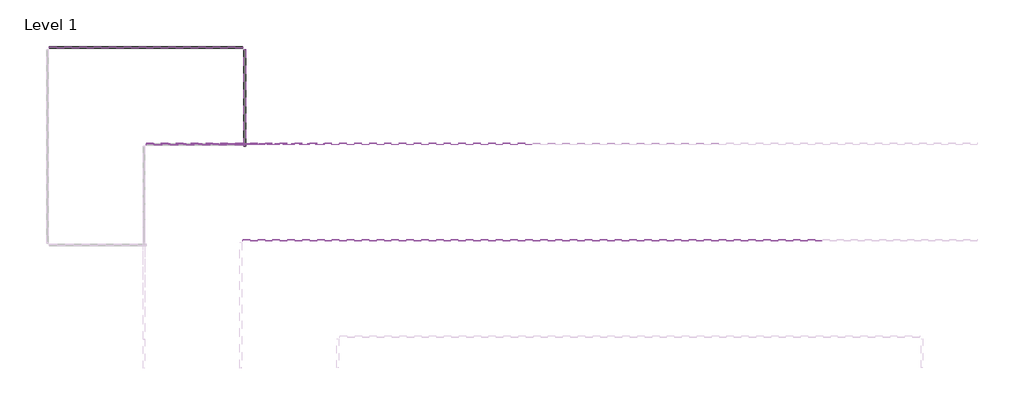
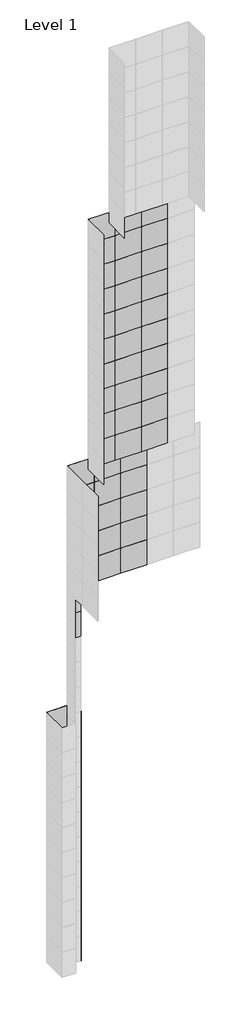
# One storey, part 13 of 15: 135 plates.
"""IFC4 building model written with IfcOpenShell, lengths in millimetres."""

from ifc_helpers import new_model, si_unit, origin, place, context, project, spatial, transform, mapped, element, save
from components import system_panel_glazed_9c75bc08, system_panel_glazed_0a0842ec, system_panel_glazed_aa64d645

model = new_model("IFC4")

# Units and contexts
model_context = context("Model", 3, world=origin())
ifc_project = project(units=[si_unit("LENGTHUNIT", "METRE", prefix="MILLI")], contexts=[model_context])

# Site, building, storey
site = spatial("IfcSite", under=ifc_project)
building = spatial("IfcBuilding", under=site)
storey = spatial("IfcBuildingStorey", under=building, Name="Level 1", Elevation=0.0)

# Plates
placement = place(None, origin())
system_panel_glazed_shape = system_panel_glazed_9c75bc08(model_context)
element("IfcPlate", 1, ObjectType="System Panel : Glazed", at=placement, inside=storey, context=model_context, shape_type="MappedRepresentation", body=[
    mapped(system_panel_glazed_shape, transform((37356.2903978, 9875.0904402, 39624.0), x_axis=(-1.0, 0.0, 0.0), y_axis=(0.0, -1.0, 0.0), z_axis=(0.0, 0.0, 1.0))),
])
element("IfcPlate", 2, ObjectType="System Panel : Glazed", at=placement, inside=storey, context=model_context, shape_type="MappedRepresentation", body=[
    mapped(system_panel_glazed_shape, transform((37356.2903978, 9875.0904402, 42672.0), x_axis=(-1.0, 0.0, 0.0), y_axis=(0.0, -1.0, 0.0), z_axis=(0.0, 0.0, 1.0))),
])
element("IfcPlate", 3, ObjectType="System Panel : Glazed", at=placement, inside=storey, context=model_context, shape_type="MappedRepresentation", body=[
    mapped(system_panel_glazed_shape, transform((37356.2903978, 9875.0904402, 0.0), x_axis=(-1.0, 0.0, 0.0), y_axis=(0.0, -1.0, 0.0), z_axis=(0.0, 0.0, 1.0))),
])
element("IfcPlate", 4, ObjectType="System Panel : Glazed", at=placement, inside=storey, context=model_context, shape_type="MappedRepresentation", body=[
    mapped(system_panel_glazed_shape, transform((37356.2903978, 9875.0904402, 3048.0), x_axis=(-1.0, 0.0, 0.0), y_axis=(0.0, -1.0, 0.0), z_axis=(0.0, 0.0, 1.0))),
])
element("IfcPlate", 5, ObjectType="System Panel : Glazed", at=placement, inside=storey, context=model_context, shape_type="MappedRepresentation", body=[
    mapped(system_panel_glazed_shape, transform((37356.2903978, 9875.0904402, 6096.0), x_axis=(-1.0, 0.0, 0.0), y_axis=(0.0, -1.0, 0.0), z_axis=(0.0, 0.0, 1.0))),
])
element("IfcPlate", 6, ObjectType="System Panel : Glazed", at=placement, inside=storey, context=model_context, shape_type="MappedRepresentation", body=[
    mapped(system_panel_glazed_shape, transform((37356.2903978, 9875.0904402, 9144.0), x_axis=(-1.0, 0.0, 0.0), y_axis=(0.0, -1.0, 0.0), z_axis=(0.0, 0.0, 1.0))),
])
element("IfcPlate", 7, ObjectType="System Panel : Glazed", at=placement, inside=storey, context=model_context, shape_type="MappedRepresentation", body=[
    mapped(system_panel_glazed_shape, transform((37356.2903978, 9875.0904402, 12192.0), x_axis=(-1.0, 0.0, 0.0), y_axis=(0.0, -1.0, 0.0), z_axis=(0.0, 0.0, 1.0))),
])
element("IfcPlate", 8, ObjectType="System Panel : Glazed", at=placement, inside=storey, context=model_context, shape_type="MappedRepresentation", body=[
    mapped(system_panel_glazed_shape, transform((37356.2903978, 9875.0904402, 15240.0), x_axis=(-1.0, 0.0, 0.0), y_axis=(0.0, -1.0, 0.0), z_axis=(0.0, 0.0, 1.0))),
])
element("IfcPlate", 9, ObjectType="System Panel : Glazed", at=placement, inside=storey, context=model_context, shape_type="MappedRepresentation", body=[
    mapped(system_panel_glazed_shape, transform((37356.2903978, 9875.0904402, 18288.0), x_axis=(-1.0, 0.0, 0.0), y_axis=(0.0, -1.0, 0.0), z_axis=(0.0, 0.0, 1.0))),
])
element("IfcPlate", 10, ObjectType="System Panel : Glazed", at=placement, inside=storey, context=model_context, shape_type="MappedRepresentation", body=[
    mapped(system_panel_glazed_shape, transform((37356.2903978, 9875.0904402, 21336.0), x_axis=(-1.0, 0.0, 0.0), y_axis=(0.0, -1.0, 0.0), z_axis=(0.0, 0.0, 1.0))),
])
element("IfcPlate", 11, ObjectType="System Panel : Glazed", at=placement, inside=storey, context=model_context, shape_type="MappedRepresentation", body=[
    mapped(system_panel_glazed_shape, transform((37356.2903978, 9875.0904402, 24384.0), x_axis=(-1.0, 0.0, 0.0), y_axis=(0.0, -1.0, 0.0), z_axis=(0.0, 0.0, 1.0))),
])
element("IfcPlate", 12, ObjectType="System Panel : Glazed", at=placement, inside=storey, context=model_context, shape_type="MappedRepresentation", body=[
    mapped(system_panel_glazed_shape, transform((37356.2903978, 9875.0904402, 27432.0), x_axis=(-1.0, 0.0, 0.0), y_axis=(0.0, -1.0, 0.0), z_axis=(0.0, 0.0, 1.0))),
])
element("IfcPlate", 13, ObjectType="System Panel : Glazed", at=placement, inside=storey, context=model_context, shape_type="MappedRepresentation", body=[
    mapped(system_panel_glazed_shape, transform((37356.2903978, 9875.0904402, 30480.0), x_axis=(-1.0, 0.0, 0.0), y_axis=(0.0, -1.0, 0.0), z_axis=(0.0, 0.0, 1.0))),
])
element("IfcPlate", 14, ObjectType="System Panel : Glazed", at=placement, inside=storey, context=model_context, shape_type="MappedRepresentation", body=[
    mapped(system_panel_glazed_shape, transform((37356.2903978, 9875.0904402, 33528.0), x_axis=(-1.0, 0.0, 0.0), y_axis=(0.0, -1.0, 0.0), z_axis=(0.0, 0.0, 1.0))),
])
element("IfcPlate", 15, ObjectType="System Panel : Glazed", at=placement, inside=storey, context=model_context, shape_type="MappedRepresentation", body=[
    mapped(system_panel_glazed_shape, transform((37356.2903978, 9875.0904402, 36576.0), x_axis=(-1.0, 0.0, 0.0), y_axis=(0.0, -1.0, 0.0), z_axis=(0.0, 0.0, 1.0))),
])
element("IfcPlate", 16, ObjectType="System Panel : Glazed", at=placement, inside=storey, context=model_context, shape_type="MappedRepresentation", body=[
    mapped(system_panel_glazed_shape, transform((37356.2903978, 9875.0904402, 39624.0), x_axis=(-1.0, 0.0, 0.0), y_axis=(0.0, -1.0, 0.0), z_axis=(0.0, 0.0, 1.0))),
])
element("IfcPlate", 17, ObjectType="System Panel : Glazed", at=placement, inside=storey, context=model_context, shape_type="MappedRepresentation", body=[
    mapped(system_panel_glazed_shape, transform((37356.2903978, 9875.0904402, 42672.0), x_axis=(-1.0, 0.0, 0.0), y_axis=(0.0, -1.0, 0.0), z_axis=(0.0, 0.0, 1.0))),
])
element("IfcPlate", 18, ObjectType="System Panel : Glazed", at=placement, inside=storey, context=model_context, shape_type="MappedRepresentation", body=[
    mapped(system_panel_glazed_shape, transform((37356.2903978, 9875.0904402, 0.0), x_axis=(-1.0, 0.0, 0.0), y_axis=(0.0, -1.0, 0.0), z_axis=(0.0, 0.0, 1.0))),
])
element("IfcPlate", 19, ObjectType="System Panel : Glazed", at=placement, inside=storey, context=model_context, shape_type="MappedRepresentation", body=[
    mapped(system_panel_glazed_shape, transform((37356.2903978, 9875.0904402, 3048.0), x_axis=(-1.0, 0.0, 0.0), y_axis=(0.0, -1.0, 0.0), z_axis=(0.0, 0.0, 1.0))),
])
element("IfcPlate", 20, ObjectType="System Panel : Glazed", at=placement, inside=storey, context=model_context, shape_type="MappedRepresentation", body=[
    mapped(system_panel_glazed_shape, transform((37356.2903978, 9875.0904402, 6096.0), x_axis=(-1.0, 0.0, 0.0), y_axis=(0.0, -1.0, 0.0), z_axis=(0.0, 0.0, 1.0))),
])
element("IfcPlate", 21, ObjectType="System Panel : Glazed", at=placement, inside=storey, context=model_context, shape_type="MappedRepresentation", body=[
    mapped(system_panel_glazed_shape, transform((37356.2903978, 9875.0904402, 9144.0), x_axis=(-1.0, 0.0, 0.0), y_axis=(0.0, -1.0, 0.0), z_axis=(0.0, 0.0, 1.0))),
])
element("IfcPlate", 22, ObjectType="System Panel : Glazed", at=placement, inside=storey, context=model_context, shape_type="MappedRepresentation", body=[
    mapped(system_panel_glazed_shape, transform((37356.2903978, 9875.0904402, 12192.0), x_axis=(-1.0, 0.0, 0.0), y_axis=(0.0, -1.0, 0.0), z_axis=(0.0, 0.0, 1.0))),
])
element("IfcPlate", 23, ObjectType="System Panel : Glazed", at=placement, inside=storey, context=model_context, shape_type="MappedRepresentation", body=[
    mapped(system_panel_glazed_shape, transform((37356.2903978, 9875.0904402, 15240.0), x_axis=(-1.0, 0.0, 0.0), y_axis=(0.0, -1.0, 0.0), z_axis=(0.0, 0.0, 1.0))),
])
element("IfcPlate", 24, ObjectType="System Panel : Glazed", at=placement, inside=storey, context=model_context, shape_type="MappedRepresentation", body=[
    mapped(system_panel_glazed_shape, transform((37356.2903978, 9875.0904402, 18288.0), x_axis=(-1.0, 0.0, 0.0), y_axis=(0.0, -1.0, 0.0), z_axis=(0.0, 0.0, 1.0))),
])
element("IfcPlate", 25, ObjectType="System Panel : Glazed", at=placement, inside=storey, context=model_context, shape_type="MappedRepresentation", body=[
    mapped(system_panel_glazed_shape, transform((37356.2903978, 9875.0904402, 21336.0), x_axis=(-1.0, 0.0, 0.0), y_axis=(0.0, -1.0, 0.0), z_axis=(0.0, 0.0, 1.0))),
])
element("IfcPlate", 26, ObjectType="System Panel : Glazed", at=placement, inside=storey, context=model_context, shape_type="MappedRepresentation", body=[
    mapped(system_panel_glazed_shape, transform((37356.2903978, 9875.0904402, 24384.0), x_axis=(-1.0, 0.0, 0.0), y_axis=(0.0, -1.0, 0.0), z_axis=(0.0, 0.0, 1.0))),
])
element("IfcPlate", 27, ObjectType="System Panel : Glazed", at=placement, inside=storey, context=model_context, shape_type="MappedRepresentation", body=[
    mapped(system_panel_glazed_shape, transform((37356.2903978, 9875.0904402, 27432.0), x_axis=(-1.0, 0.0, 0.0), y_axis=(0.0, -1.0, 0.0), z_axis=(0.0, 0.0, 1.0))),
])
element("IfcPlate", 28, ObjectType="System Panel : Glazed", at=placement, inside=storey, context=model_context, shape_type="MappedRepresentation", body=[
    mapped(system_panel_glazed_shape, transform((37356.2903978, 9875.0904402, 30480.0), x_axis=(-1.0, 0.0, 0.0), y_axis=(0.0, -1.0, 0.0), z_axis=(0.0, 0.0, 1.0))),
])
element("IfcPlate", 29, ObjectType="System Panel : Glazed", at=placement, inside=storey, context=model_context, shape_type="MappedRepresentation", body=[
    mapped(system_panel_glazed_shape, transform((37356.2903978, 9875.0904402, 33528.0), x_axis=(-1.0, 0.0, 0.0), y_axis=(0.0, -1.0, 0.0), z_axis=(0.0, 0.0, 1.0))),
])
element("IfcPlate", 30, ObjectType="System Panel : Glazed", at=placement, inside=storey, context=model_context, shape_type="MappedRepresentation", body=[
    mapped(system_panel_glazed_shape, transform((37356.2903978, 9875.0904402, 36576.0), x_axis=(-1.0, 0.0, 0.0), y_axis=(0.0, -1.0, 0.0), z_axis=(0.0, 0.0, 1.0))),
])
element("IfcPlate", 31, ObjectType="System Panel : Glazed", at=placement, inside=storey, context=model_context, shape_type="MappedRepresentation", body=[
    mapped(system_panel_glazed_shape, transform((37356.2903978, 9875.0904402, 39624.0), x_axis=(-1.0, 0.0, 0.0), y_axis=(0.0, -1.0, 0.0), z_axis=(0.0, 0.0, 1.0))),
])
element("IfcPlate", 32, ObjectType="System Panel : Glazed", at=placement, inside=storey, context=model_context, shape_type="MappedRepresentation", body=[
    mapped(system_panel_glazed_shape, transform((37356.2903978, 9875.0904402, 42672.0), x_axis=(-1.0, 0.0, 0.0), y_axis=(0.0, -1.0, 0.0), z_axis=(0.0, 0.0, 1.0))),
])
element("IfcPlate", 33, ObjectType="System Panel : Glazed", at=placement, inside=storey, context=model_context, shape_type="MappedRepresentation", body=[
    mapped(system_panel_glazed_shape, transform((38118.2903978, 10637.0904402, 0.0), x_axis=(0.0, 1.0, 0.0), y_axis=(-1.0, 0.0, 0.0), z_axis=(0.0, 0.0, 1.0))),
])
element("IfcPlate", 34, ObjectType="System Panel : Glazed", at=placement, inside=storey, context=model_context, shape_type="MappedRepresentation", body=[
    mapped(system_panel_glazed_shape, transform((38118.2903978, 10637.0904402, 3048.0), x_axis=(0.0, 1.0, 0.0), y_axis=(-1.0, 0.0, 0.0), z_axis=(0.0, 0.0, 1.0))),
])
element("IfcPlate", 35, ObjectType="System Panel : Glazed", at=placement, inside=storey, context=model_context, shape_type="MappedRepresentation", body=[
    mapped(system_panel_glazed_shape, transform((38118.2903978, 10637.0904402, 6096.0), x_axis=(0.0, 1.0, 0.0), y_axis=(-1.0, 0.0, 0.0), z_axis=(0.0, 0.0, 1.0))),
])
element("IfcPlate", 36, ObjectType="System Panel : Glazed", at=placement, inside=storey, context=model_context, shape_type="MappedRepresentation", body=[
    mapped(system_panel_glazed_shape, transform((38118.2903978, 10637.0904402, 9144.0), x_axis=(0.0, 1.0, 0.0), y_axis=(-1.0, 0.0, 0.0), z_axis=(0.0, 0.0, 1.0))),
])
element("IfcPlate", 37, ObjectType="System Panel : Glazed", at=placement, inside=storey, context=model_context, shape_type="MappedRepresentation", body=[
    mapped(system_panel_glazed_shape, transform((38118.2903978, 10637.0904402, 12192.0), x_axis=(0.0, 1.0, 0.0), y_axis=(-1.0, 0.0, 0.0), z_axis=(0.0, 0.0, 1.0))),
])
element("IfcPlate", 38, ObjectType="System Panel : Glazed", at=placement, inside=storey, context=model_context, shape_type="MappedRepresentation", body=[
    mapped(system_panel_glazed_shape, transform((38118.2903978, 10637.0904402, 15240.0), x_axis=(0.0, 1.0, 0.0), y_axis=(-1.0, 0.0, 0.0), z_axis=(0.0, 0.0, 1.0))),
])
element("IfcPlate", 39, ObjectType="System Panel : Glazed", at=placement, inside=storey, context=model_context, shape_type="MappedRepresentation", body=[
    mapped(system_panel_glazed_shape, transform((38118.2903978, 10637.0904402, 18288.0), x_axis=(0.0, 1.0, 0.0), y_axis=(-1.0, 0.0, 0.0), z_axis=(0.0, 0.0, 1.0))),
])
element("IfcPlate", 40, ObjectType="System Panel : Glazed", at=placement, inside=storey, context=model_context, shape_type="MappedRepresentation", body=[
    mapped(system_panel_glazed_shape, transform((38118.2903978, 10637.0904402, 21336.0), x_axis=(0.0, 1.0, 0.0), y_axis=(-1.0, 0.0, 0.0), z_axis=(0.0, 0.0, 1.0))),
])
element("IfcPlate", 41, ObjectType="System Panel : Glazed", at=placement, inside=storey, context=model_context, shape_type="MappedRepresentation", body=[
    mapped(system_panel_glazed_shape, transform((38118.2903978, 10637.0904402, 24384.0), x_axis=(0.0, 1.0, 0.0), y_axis=(-1.0, 0.0, 0.0), z_axis=(0.0, 0.0, 1.0))),
])
element("IfcPlate", 42, ObjectType="System Panel : Glazed", at=placement, inside=storey, context=model_context, shape_type="MappedRepresentation", body=[
    mapped(system_panel_glazed_shape, transform((38118.2903978, 10637.0904402, 27432.0), x_axis=(0.0, 1.0, 0.0), y_axis=(-1.0, 0.0, 0.0), z_axis=(0.0, 0.0, 1.0))),
])
system_panel_glazed_2_shape = system_panel_glazed_0a0842ec(model_context)
element("IfcPlate", 43, ObjectType="System Panel : Glazed", at=placement, inside=storey, context=model_context, shape_type="MappedRepresentation", body=[
    mapped(system_panel_glazed_2_shape, transform((38118.2903978, 9875.0904402, 45720.0), x_axis=(-1.0, 0.0, 0.0), y_axis=(0.0, -1.0, 0.0), z_axis=(0.0, 0.0, 1.0))),
])
element("IfcPlate", 44, ObjectType="System Panel : Glazed", at=placement, inside=storey, context=model_context, shape_type="MappedRepresentation", body=[
    mapped(system_panel_glazed_2_shape, transform((38118.2903978, 9875.0904402, 45720.0), x_axis=(-1.0, 0.0, 0.0), y_axis=(0.0, -1.0, 0.0), z_axis=(0.0, 0.0, 1.0))),
])
element("IfcPlate", 45, ObjectType="System Panel : Glazed", at=placement, inside=storey, context=model_context, shape_type="MappedRepresentation", body=[
    mapped(system_panel_glazed_2_shape, transform((38118.2903978, 9875.0904402, 45720.0), x_axis=(-1.0, 0.0, 0.0), y_axis=(0.0, -1.0, 0.0), z_axis=(0.0, 0.0, 1.0))),
])
system_panel_glazed_3_shape = system_panel_glazed_aa64d645(model_context)
element("IfcPlate", 46, ObjectType="System Panel : Glazed", at=placement, inside=storey, context=model_context, shape_type="MappedRepresentation", body=[
    mapped(system_panel_glazed_3_shape, transform((44214.2903978, 9875.0904402, 45720.0), x_axis=(-1.0, 0.0, 0.0), y_axis=(0.0, -1.0, 0.0), z_axis=(0.0, 0.0, 1.0))),
])
element("IfcPlate", 47, ObjectType="System Panel : Glazed", at=placement, inside=storey, context=model_context, shape_type="MappedRepresentation", body=[
    mapped(system_panel_glazed_3_shape, transform((41166.2903978, 9875.0904402, 45720.0), x_axis=(-1.0, 0.0, 0.0), y_axis=(0.0, -1.0, 0.0), z_axis=(0.0, 0.0, 1.0))),
])
element("IfcPlate", 48, ObjectType="System Panel : Glazed", at=placement, inside=storey, context=model_context, shape_type="MappedRepresentation", body=[
    mapped(system_panel_glazed_3_shape, transform((44214.2903978, 9875.0904402, 48768.0), x_axis=(-1.0, 0.0, 0.0), y_axis=(0.0, -1.0, 0.0), z_axis=(0.0, 0.0, 1.0))),
])
element("IfcPlate", 49, ObjectType="System Panel : Glazed", at=placement, inside=storey, context=model_context, shape_type="MappedRepresentation", body=[
    mapped(system_panel_glazed_3_shape, transform((41166.2903978, 9875.0904402, 48768.0), x_axis=(-1.0, 0.0, 0.0), y_axis=(0.0, -1.0, 0.0), z_axis=(0.0, 0.0, 1.0))),
])
element("IfcPlate", 50, ObjectType="System Panel : Glazed", at=placement, inside=storey, context=model_context, shape_type="MappedRepresentation", body=[
    mapped(system_panel_glazed_3_shape, transform((38118.2903978, 9875.0904402, 48768.0), x_axis=(-1.0, 0.0, 0.0), y_axis=(0.0, -1.0, 0.0), z_axis=(0.0, 0.0, 1.0))),
])
element("IfcPlate", 51, ObjectType="System Panel : Glazed", at=placement, inside=storey, context=model_context, shape_type="MappedRepresentation", body=[
    mapped(system_panel_glazed_3_shape, transform((44214.2903978, 9875.0904402, 51816.0), x_axis=(-1.0, 0.0, 0.0), y_axis=(0.0, -1.0, 0.0), z_axis=(0.0, 0.0, 1.0))),
])
element("IfcPlate", 52, ObjectType="System Panel : Glazed", at=placement, inside=storey, context=model_context, shape_type="MappedRepresentation", body=[
    mapped(system_panel_glazed_3_shape, transform((41166.2903978, 9875.0904402, 51816.0), x_axis=(-1.0, 0.0, 0.0), y_axis=(0.0, -1.0, 0.0), z_axis=(0.0, 0.0, 1.0))),
])
element("IfcPlate", 53, ObjectType="System Panel : Glazed", at=placement, inside=storey, context=model_context, shape_type="MappedRepresentation", body=[
    mapped(system_panel_glazed_3_shape, transform((38118.2903978, 9875.0904402, 51816.0), x_axis=(-1.0, 0.0, 0.0), y_axis=(0.0, -1.0, 0.0), z_axis=(0.0, 0.0, 1.0))),
])
element("IfcPlate", 54, ObjectType="System Panel : Glazed", at=placement, inside=storey, context=model_context, shape_type="MappedRepresentation", body=[
    mapped(system_panel_glazed_3_shape, transform((44214.2903978, 9875.0904402, 54864.0), x_axis=(-1.0, 0.0, 0.0), y_axis=(0.0, -1.0, 0.0), z_axis=(0.0, 0.0, 1.0))),
])
element("IfcPlate", 55, ObjectType="System Panel : Glazed", at=placement, inside=storey, context=model_context, shape_type="MappedRepresentation", body=[
    mapped(system_panel_glazed_3_shape, transform((41166.2903978, 9875.0904402, 54864.0), x_axis=(-1.0, 0.0, 0.0), y_axis=(0.0, -1.0, 0.0), z_axis=(0.0, 0.0, 1.0))),
])
element("IfcPlate", 56, ObjectType="System Panel : Glazed", at=placement, inside=storey, context=model_context, shape_type="MappedRepresentation", body=[
    mapped(system_panel_glazed_3_shape, transform((38118.2903978, 9875.0904402, 54864.0), x_axis=(-1.0, 0.0, 0.0), y_axis=(0.0, -1.0, 0.0), z_axis=(0.0, 0.0, 1.0))),
])
element("IfcPlate", 57, ObjectType="System Panel : Glazed", at=placement, inside=storey, context=model_context, shape_type="MappedRepresentation", body=[
    mapped(system_panel_glazed_3_shape, transform((44214.2903978, 9875.0904402, 57912.0), x_axis=(-1.0, 0.0, 0.0), y_axis=(0.0, -1.0, 0.0), z_axis=(0.0, 0.0, 1.0))),
])
element("IfcPlate", 58, ObjectType="System Panel : Glazed", at=placement, inside=storey, context=model_context, shape_type="MappedRepresentation", body=[
    mapped(system_panel_glazed_3_shape, transform((41166.2903978, 9875.0904402, 57912.0), x_axis=(-1.0, 0.0, 0.0), y_axis=(0.0, -1.0, 0.0), z_axis=(0.0, 0.0, 1.0))),
])
element("IfcPlate", 59, ObjectType="System Panel : Glazed", at=placement, inside=storey, context=model_context, shape_type="MappedRepresentation", body=[
    mapped(system_panel_glazed_3_shape, transform((38118.2903978, 9875.0904402, 57912.0), x_axis=(-1.0, 0.0, 0.0), y_axis=(0.0, -1.0, 0.0), z_axis=(0.0, 0.0, 1.0))),
])
element("IfcPlate", 60, ObjectType="System Panel : Glazed", at=placement, inside=storey, context=model_context, shape_type="MappedRepresentation", body=[
    mapped(system_panel_glazed_3_shape, transform((45738.2903978, 8351.0904402, 60960.0), x_axis=(-1.0, 0.0, 0.0), y_axis=(0.0, -1.0, 0.0), z_axis=(0.0, 0.0, 1.0))),
])
element("IfcPlate", 61, ObjectType="System Panel : Glazed", at=placement, inside=storey, context=model_context, shape_type="MappedRepresentation", body=[
    mapped(system_panel_glazed_3_shape, transform((42690.2903978, 8351.0904402, 60960.0), x_axis=(-1.0, 0.0, 0.0), y_axis=(0.0, -1.0, 0.0), z_axis=(0.0, 0.0, 1.0))),
])
element("IfcPlate", 62, ObjectType="System Panel : Glazed", at=placement, inside=storey, context=model_context, shape_type="MappedRepresentation", body=[
    mapped(system_panel_glazed_3_shape, transform((39642.2903978, 8351.0904402, 60960.0), x_axis=(-1.0, 0.0, 0.0), y_axis=(0.0, -1.0, 0.0), z_axis=(0.0, 0.0, 1.0))),
])
element("IfcPlate", 63, ObjectType="System Panel : Glazed", at=placement, inside=storey, context=model_context, shape_type="MappedRepresentation", body=[
    mapped(system_panel_glazed_3_shape, transform((45738.2903978, 8351.0904402, 64008.0), x_axis=(-1.0, 0.0, 0.0), y_axis=(0.0, -1.0, 0.0), z_axis=(0.0, 0.0, 1.0))),
])
element("IfcPlate", 64, ObjectType="System Panel : Glazed", at=placement, inside=storey, context=model_context, shape_type="MappedRepresentation", body=[
    mapped(system_panel_glazed_3_shape, transform((42690.2903978, 8351.0904402, 64008.0), x_axis=(-1.0, 0.0, 0.0), y_axis=(0.0, -1.0, 0.0), z_axis=(0.0, 0.0, 1.0))),
])
element("IfcPlate", 65, ObjectType="System Panel : Glazed", at=placement, inside=storey, context=model_context, shape_type="MappedRepresentation", body=[
    mapped(system_panel_glazed_3_shape, transform((39642.2903978, 8351.0904402, 64008.0), x_axis=(-1.0, 0.0, 0.0), y_axis=(0.0, -1.0, 0.0), z_axis=(0.0, 0.0, 1.0))),
])
element("IfcPlate", 66, ObjectType="System Panel : Glazed", at=placement, inside=storey, context=model_context, shape_type="MappedRepresentation", body=[
    mapped(system_panel_glazed_3_shape, transform((45738.2903978, 8351.0904402, 67056.0), x_axis=(-1.0, 0.0, 0.0), y_axis=(0.0, -1.0, 0.0), z_axis=(0.0, 0.0, 1.0))),
])
element("IfcPlate", 67, ObjectType="System Panel : Glazed", at=placement, inside=storey, context=model_context, shape_type="MappedRepresentation", body=[
    mapped(system_panel_glazed_3_shape, transform((42690.2903978, 8351.0904402, 67056.0), x_axis=(-1.0, 0.0, 0.0), y_axis=(0.0, -1.0, 0.0), z_axis=(0.0, 0.0, 1.0))),
])
element("IfcPlate", 68, ObjectType="System Panel : Glazed", at=placement, inside=storey, context=model_context, shape_type="MappedRepresentation", body=[
    mapped(system_panel_glazed_3_shape, transform((39642.2903978, 8351.0904402, 67056.0), x_axis=(-1.0, 0.0, 0.0), y_axis=(0.0, -1.0, 0.0), z_axis=(0.0, 0.0, 1.0))),
])
element("IfcPlate", 69, ObjectType="System Panel : Glazed", at=placement, inside=storey, context=model_context, shape_type="MappedRepresentation", body=[
    mapped(system_panel_glazed_3_shape, transform((45738.2903978, 8351.0904402, 70104.0), x_axis=(-1.0, 0.0, 0.0), y_axis=(0.0, -1.0, 0.0), z_axis=(0.0, 0.0, 1.0))),
])
element("IfcPlate", 70, ObjectType="System Panel : Glazed", at=placement, inside=storey, context=model_context, shape_type="MappedRepresentation", body=[
    mapped(system_panel_glazed_3_shape, transform((42690.2903978, 8351.0904402, 70104.0), x_axis=(-1.0, 0.0, 0.0), y_axis=(0.0, -1.0, 0.0), z_axis=(0.0, 0.0, 1.0))),
])
element("IfcPlate", 71, ObjectType="System Panel : Glazed", at=placement, inside=storey, context=model_context, shape_type="MappedRepresentation", body=[
    mapped(system_panel_glazed_3_shape, transform((39642.2903978, 8351.0904402, 70104.0), x_axis=(-1.0, 0.0, 0.0), y_axis=(0.0, -1.0, 0.0), z_axis=(0.0, 0.0, 1.0))),
])
element("IfcPlate", 72, ObjectType="System Panel : Glazed", at=placement, inside=storey, context=model_context, shape_type="MappedRepresentation", body=[
    mapped(system_panel_glazed_3_shape, transform((45738.2903978, 8351.0904402, 73152.0), x_axis=(-1.0, 0.0, 0.0), y_axis=(0.0, -1.0, 0.0), z_axis=(0.0, 0.0, 1.0))),
])
element("IfcPlate", 73, ObjectType="System Panel : Glazed", at=placement, inside=storey, context=model_context, shape_type="MappedRepresentation", body=[
    mapped(system_panel_glazed_3_shape, transform((42690.2903978, 8351.0904402, 73152.0), x_axis=(-1.0, 0.0, 0.0), y_axis=(0.0, -1.0, 0.0), z_axis=(0.0, 0.0, 1.0))),
])
element("IfcPlate", 74, ObjectType="System Panel : Glazed", at=placement, inside=storey, context=model_context, shape_type="MappedRepresentation", body=[
    mapped(system_panel_glazed_3_shape, transform((39642.2903978, 8351.0904402, 73152.0), x_axis=(-1.0, 0.0, 0.0), y_axis=(0.0, -1.0, 0.0), z_axis=(0.0, 0.0, 1.0))),
])
element("IfcPlate", 75, ObjectType="System Panel : Glazed", at=placement, inside=storey, context=model_context, shape_type="MappedRepresentation", body=[
    mapped(system_panel_glazed_3_shape, transform((45738.2903978, 8351.0904402, 76200.0), x_axis=(-1.0, 0.0, 0.0), y_axis=(0.0, -1.0, 0.0), z_axis=(0.0, 0.0, 1.0))),
])
element("IfcPlate", 76, ObjectType="System Panel : Glazed", at=placement, inside=storey, context=model_context, shape_type="MappedRepresentation", body=[
    mapped(system_panel_glazed_3_shape, transform((42690.2903978, 8351.0904402, 76200.0), x_axis=(-1.0, 0.0, 0.0), y_axis=(0.0, -1.0, 0.0), z_axis=(0.0, 0.0, 1.0))),
])
element("IfcPlate", 77, ObjectType="System Panel : Glazed", at=placement, inside=storey, context=model_context, shape_type="MappedRepresentation", body=[
    mapped(system_panel_glazed_3_shape, transform((39642.2903978, 8351.0904402, 76200.0), x_axis=(-1.0, 0.0, 0.0), y_axis=(0.0, -1.0, 0.0), z_axis=(0.0, 0.0, 1.0))),
])
element("IfcPlate", 78, ObjectType="System Panel : Glazed", at=placement, inside=storey, context=model_context, shape_type="MappedRepresentation", body=[
    mapped(system_panel_glazed_3_shape, transform((45738.2903978, 8351.0904402, 79248.0), x_axis=(-1.0, 0.0, 0.0), y_axis=(0.0, -1.0, 0.0), z_axis=(0.0, 0.0, 1.0))),
])
element("IfcPlate", 79, ObjectType="System Panel : Glazed", at=placement, inside=storey, context=model_context, shape_type="MappedRepresentation", body=[
    mapped(system_panel_glazed_3_shape, transform((42690.2903978, 8351.0904402, 79248.0), x_axis=(-1.0, 0.0, 0.0), y_axis=(0.0, -1.0, 0.0), z_axis=(0.0, 0.0, 1.0))),
])
element("IfcPlate", 80, ObjectType="System Panel : Glazed", at=placement, inside=storey, context=model_context, shape_type="MappedRepresentation", body=[
    mapped(system_panel_glazed_3_shape, transform((39642.2903978, 8351.0904402, 79248.0), x_axis=(-1.0, 0.0, 0.0), y_axis=(0.0, -1.0, 0.0), z_axis=(0.0, 0.0, 1.0))),
])
element("IfcPlate", 81, ObjectType="System Panel : Glazed", at=placement, inside=storey, context=model_context, shape_type="MappedRepresentation", body=[
    mapped(system_panel_glazed_3_shape, transform((45738.2903978, 8351.0904402, 82296.0), x_axis=(-1.0, 0.0, 0.0), y_axis=(0.0, -1.0, 0.0), z_axis=(0.0, 0.0, 1.0))),
])
element("IfcPlate", 82, ObjectType="System Panel : Glazed", at=placement, inside=storey, context=model_context, shape_type="MappedRepresentation", body=[
    mapped(system_panel_glazed_3_shape, transform((42690.2903978, 8351.0904402, 82296.0), x_axis=(-1.0, 0.0, 0.0), y_axis=(0.0, -1.0, 0.0), z_axis=(0.0, 0.0, 1.0))),
])
element("IfcPlate", 83, ObjectType="System Panel : Glazed", at=placement, inside=storey, context=model_context, shape_type="MappedRepresentation", body=[
    mapped(system_panel_glazed_3_shape, transform((39642.2903978, 8351.0904402, 82296.0), x_axis=(-1.0, 0.0, 0.0), y_axis=(0.0, -1.0, 0.0), z_axis=(0.0, 0.0, 1.0))),
])
element("IfcPlate", 84, ObjectType="System Panel : Glazed", at=placement, inside=storey, context=model_context, shape_type="MappedRepresentation", body=[
    mapped(system_panel_glazed_3_shape, transform((45738.2903978, 8351.0904402, 85344.0), x_axis=(-1.0, 0.0, 0.0), y_axis=(0.0, -1.0, 0.0), z_axis=(0.0, 0.0, 1.0))),
])
element("IfcPlate", 85, ObjectType="System Panel : Glazed", at=placement, inside=storey, context=model_context, shape_type="MappedRepresentation", body=[
    mapped(system_panel_glazed_3_shape, transform((42690.2903978, 8351.0904402, 85344.0), x_axis=(-1.0, 0.0, 0.0), y_axis=(0.0, -1.0, 0.0), z_axis=(0.0, 0.0, 1.0))),
])
element("IfcPlate", 86, ObjectType="System Panel : Glazed", at=placement, inside=storey, context=model_context, shape_type="MappedRepresentation", body=[
    mapped(system_panel_glazed_3_shape, transform((39642.2903978, 8351.0904402, 85344.0), x_axis=(-1.0, 0.0, 0.0), y_axis=(0.0, -1.0, 0.0), z_axis=(0.0, 0.0, 1.0))),
])
element("IfcPlate", 87, ObjectType="System Panel : Glazed", at=placement, inside=storey, context=model_context, shape_type="MappedRepresentation", body=[
    mapped(system_panel_glazed_3_shape, transform((45738.2903978, 8351.0904402, 88392.0), x_axis=(-1.0, 0.0, 0.0), y_axis=(0.0, -1.0, 0.0), z_axis=(0.0, 0.0, 1.0))),
])
element("IfcPlate", 88, ObjectType="System Panel : Glazed", at=placement, inside=storey, context=model_context, shape_type="MappedRepresentation", body=[
    mapped(system_panel_glazed_3_shape, transform((42690.2903978, 8351.0904402, 88392.0), x_axis=(-1.0, 0.0, 0.0), y_axis=(0.0, -1.0, 0.0), z_axis=(0.0, 0.0, 1.0))),
])
element("IfcPlate", 89, ObjectType="System Panel : Glazed", at=placement, inside=storey, context=model_context, shape_type="MappedRepresentation", body=[
    mapped(system_panel_glazed_3_shape, transform((39642.2903978, 8351.0904402, 88392.0), x_axis=(-1.0, 0.0, 0.0), y_axis=(0.0, -1.0, 0.0), z_axis=(0.0, 0.0, 1.0))),
])
element("IfcPlate", 90, ObjectType="System Panel : Glazed", at=placement, inside=storey, context=model_context, shape_type="MappedRepresentation", body=[
    mapped(system_panel_glazed_3_shape, transform((44214.2903978, 9875.0904402, 45720.0), x_axis=(-1.0, 0.0, 0.0), y_axis=(0.0, -1.0, 0.0), z_axis=(0.0, 0.0, 1.0))),
])
element("IfcPlate", 91, ObjectType="System Panel : Glazed", at=placement, inside=storey, context=model_context, shape_type="MappedRepresentation", body=[
    mapped(system_panel_glazed_3_shape, transform((41166.2903978, 9875.0904402, 45720.0), x_axis=(-1.0, 0.0, 0.0), y_axis=(0.0, -1.0, 0.0), z_axis=(0.0, 0.0, 1.0))),
])
element("IfcPlate", 92, ObjectType="System Panel : Glazed", at=placement, inside=storey, context=model_context, shape_type="MappedRepresentation", body=[
    mapped(system_panel_glazed_3_shape, transform((44214.2903978, 9875.0904402, 48768.0), x_axis=(-1.0, 0.0, 0.0), y_axis=(0.0, -1.0, 0.0), z_axis=(0.0, 0.0, 1.0))),
])
element("IfcPlate", 93, ObjectType="System Panel : Glazed", at=placement, inside=storey, context=model_context, shape_type="MappedRepresentation", body=[
    mapped(system_panel_glazed_3_shape, transform((41166.2903978, 9875.0904402, 48768.0), x_axis=(-1.0, 0.0, 0.0), y_axis=(0.0, -1.0, 0.0), z_axis=(0.0, 0.0, 1.0))),
])
element("IfcPlate", 94, ObjectType="System Panel : Glazed", at=placement, inside=storey, context=model_context, shape_type="MappedRepresentation", body=[
    mapped(system_panel_glazed_3_shape, transform((38118.2903978, 9875.0904402, 48768.0), x_axis=(-1.0, 0.0, 0.0), y_axis=(0.0, -1.0, 0.0), z_axis=(0.0, 0.0, 1.0))),
])
element("IfcPlate", 95, ObjectType="System Panel : Glazed", at=placement, inside=storey, context=model_context, shape_type="MappedRepresentation", body=[
    mapped(system_panel_glazed_3_shape, transform((44214.2903978, 9875.0904402, 51816.0), x_axis=(-1.0, 0.0, 0.0), y_axis=(0.0, -1.0, 0.0), z_axis=(0.0, 0.0, 1.0))),
])
element("IfcPlate", 96, ObjectType="System Panel : Glazed", at=placement, inside=storey, context=model_context, shape_type="MappedRepresentation", body=[
    mapped(system_panel_glazed_3_shape, transform((41166.2903978, 9875.0904402, 51816.0), x_axis=(-1.0, 0.0, 0.0), y_axis=(0.0, -1.0, 0.0), z_axis=(0.0, 0.0, 1.0))),
])
element("IfcPlate", 97, ObjectType="System Panel : Glazed", at=placement, inside=storey, context=model_context, shape_type="MappedRepresentation", body=[
    mapped(system_panel_glazed_3_shape, transform((38118.2903978, 9875.0904402, 51816.0), x_axis=(-1.0, 0.0, 0.0), y_axis=(0.0, -1.0, 0.0), z_axis=(0.0, 0.0, 1.0))),
])
element("IfcPlate", 98, ObjectType="System Panel : Glazed", at=placement, inside=storey, context=model_context, shape_type="MappedRepresentation", body=[
    mapped(system_panel_glazed_3_shape, transform((44214.2903978, 9875.0904402, 54864.0), x_axis=(-1.0, 0.0, 0.0), y_axis=(0.0, -1.0, 0.0), z_axis=(0.0, 0.0, 1.0))),
])
element("IfcPlate", 99, ObjectType="System Panel : Glazed", at=placement, inside=storey, context=model_context, shape_type="MappedRepresentation", body=[
    mapped(system_panel_glazed_3_shape, transform((41166.2903978, 9875.0904402, 54864.0), x_axis=(-1.0, 0.0, 0.0), y_axis=(0.0, -1.0, 0.0), z_axis=(0.0, 0.0, 1.0))),
])
element("IfcPlate", 100, ObjectType="System Panel : Glazed", at=placement, inside=storey, context=model_context, shape_type="MappedRepresentation", body=[
    mapped(system_panel_glazed_3_shape, transform((38118.2903978, 9875.0904402, 54864.0), x_axis=(-1.0, 0.0, 0.0), y_axis=(0.0, -1.0, 0.0), z_axis=(0.0, 0.0, 1.0))),
])
element("IfcPlate", 101, ObjectType="System Panel : Glazed", at=placement, inside=storey, context=model_context, shape_type="MappedRepresentation", body=[
    mapped(system_panel_glazed_3_shape, transform((44214.2903978, 9875.0904402, 57912.0), x_axis=(-1.0, 0.0, 0.0), y_axis=(0.0, -1.0, 0.0), z_axis=(0.0, 0.0, 1.0))),
])
element("IfcPlate", 102, ObjectType="System Panel : Glazed", at=placement, inside=storey, context=model_context, shape_type="MappedRepresentation", body=[
    mapped(system_panel_glazed_3_shape, transform((41166.2903978, 9875.0904402, 57912.0), x_axis=(-1.0, 0.0, 0.0), y_axis=(0.0, -1.0, 0.0), z_axis=(0.0, 0.0, 1.0))),
])
element("IfcPlate", 103, ObjectType="System Panel : Glazed", at=placement, inside=storey, context=model_context, shape_type="MappedRepresentation", body=[
    mapped(system_panel_glazed_3_shape, transform((38118.2903978, 9875.0904402, 57912.0), x_axis=(-1.0, 0.0, 0.0), y_axis=(0.0, -1.0, 0.0), z_axis=(0.0, 0.0, 1.0))),
])
element("IfcPlate", 104, ObjectType="System Panel : Glazed", at=placement, inside=storey, context=model_context, shape_type="MappedRepresentation", body=[
    mapped(system_panel_glazed_3_shape, transform((44214.2903978, 9875.0904402, 45720.0), x_axis=(-1.0, 0.0, 0.0), y_axis=(0.0, -1.0, 0.0), z_axis=(0.0, 0.0, 1.0))),
])
element("IfcPlate", 105, ObjectType="System Panel : Glazed", at=placement, inside=storey, context=model_context, shape_type="MappedRepresentation", body=[
    mapped(system_panel_glazed_3_shape, transform((41166.2903978, 9875.0904402, 45720.0), x_axis=(-1.0, 0.0, 0.0), y_axis=(0.0, -1.0, 0.0), z_axis=(0.0, 0.0, 1.0))),
])
element("IfcPlate", 106, ObjectType="System Panel : Glazed", at=placement, inside=storey, context=model_context, shape_type="MappedRepresentation", body=[
    mapped(system_panel_glazed_3_shape, transform((44214.2903978, 9875.0904402, 48768.0), x_axis=(-1.0, 0.0, 0.0), y_axis=(0.0, -1.0, 0.0), z_axis=(0.0, 0.0, 1.0))),
])
element("IfcPlate", 107, ObjectType="System Panel : Glazed", at=placement, inside=storey, context=model_context, shape_type="MappedRepresentation", body=[
    mapped(system_panel_glazed_3_shape, transform((41166.2903978, 9875.0904402, 48768.0), x_axis=(-1.0, 0.0, 0.0), y_axis=(0.0, -1.0, 0.0), z_axis=(0.0, 0.0, 1.0))),
])
element("IfcPlate", 108, ObjectType="System Panel : Glazed", at=placement, inside=storey, context=model_context, shape_type="MappedRepresentation", body=[
    mapped(system_panel_glazed_3_shape, transform((38118.2903978, 9875.0904402, 48768.0), x_axis=(-1.0, 0.0, 0.0), y_axis=(0.0, -1.0, 0.0), z_axis=(0.0, 0.0, 1.0))),
])
element("IfcPlate", 109, ObjectType="System Panel : Glazed", at=placement, inside=storey, context=model_context, shape_type="MappedRepresentation", body=[
    mapped(system_panel_glazed_3_shape, transform((44214.2903978, 9875.0904402, 51816.0), x_axis=(-1.0, 0.0, 0.0), y_axis=(0.0, -1.0, 0.0), z_axis=(0.0, 0.0, 1.0))),
])
element("IfcPlate", 110, ObjectType="System Panel : Glazed", at=placement, inside=storey, context=model_context, shape_type="MappedRepresentation", body=[
    mapped(system_panel_glazed_3_shape, transform((41166.2903978, 9875.0904402, 51816.0), x_axis=(-1.0, 0.0, 0.0), y_axis=(0.0, -1.0, 0.0), z_axis=(0.0, 0.0, 1.0))),
])
element("IfcPlate", 111, ObjectType="System Panel : Glazed", at=placement, inside=storey, context=model_context, shape_type="MappedRepresentation", body=[
    mapped(system_panel_glazed_3_shape, transform((38118.2903978, 9875.0904402, 51816.0), x_axis=(-1.0, 0.0, 0.0), y_axis=(0.0, -1.0, 0.0), z_axis=(0.0, 0.0, 1.0))),
])
element("IfcPlate", 112, ObjectType="System Panel : Glazed", at=placement, inside=storey, context=model_context, shape_type="MappedRepresentation", body=[
    mapped(system_panel_glazed_3_shape, transform((41166.2903978, 9875.0904402, 54864.0), x_axis=(-1.0, 0.0, 0.0), y_axis=(0.0, -1.0, 0.0), z_axis=(0.0, 0.0, 1.0))),
])
element("IfcPlate", 113, ObjectType="System Panel : Glazed", at=placement, inside=storey, context=model_context, shape_type="MappedRepresentation", body=[
    mapped(system_panel_glazed_3_shape, transform((38118.2903978, 9875.0904402, 54864.0), x_axis=(-1.0, 0.0, 0.0), y_axis=(0.0, -1.0, 0.0), z_axis=(0.0, 0.0, 1.0))),
])
element("IfcPlate", 114, ObjectType="System Panel : Glazed", at=placement, inside=storey, context=model_context, shape_type="MappedRepresentation", body=[
    mapped(system_panel_glazed_3_shape, transform((41166.2903978, 9875.0904402, 57912.0), x_axis=(-1.0, 0.0, 0.0), y_axis=(0.0, -1.0, 0.0), z_axis=(0.0, 0.0, 1.0))),
])
element("IfcPlate", 115, ObjectType="System Panel : Glazed", at=placement, inside=storey, context=model_context, shape_type="MappedRepresentation", body=[
    mapped(system_panel_glazed_3_shape, transform((38118.2903978, 9875.0904402, 57912.0), x_axis=(-1.0, 0.0, 0.0), y_axis=(0.0, -1.0, 0.0), z_axis=(0.0, 0.0, 1.0))),
])
element("IfcPlate", 116, ObjectType="System Panel : Glazed", at=placement, inside=storey, context=model_context, shape_type="MappedRepresentation", body=[
    mapped(system_panel_glazed_3_shape, transform((36594.2903978, 11399.0904402, 0.0), x_axis=(-1.0, 0.0, 0.0), y_axis=(0.0, -1.0, 0.0), z_axis=(0.0, 0.0, 1.0))),
])
element("IfcPlate", 117, ObjectType="System Panel : Glazed", at=placement, inside=storey, context=model_context, shape_type="MappedRepresentation", body=[
    mapped(system_panel_glazed_3_shape, transform((36594.2903978, 11399.0904402, 3048.0), x_axis=(-1.0, 0.0, 0.0), y_axis=(0.0, -1.0, 0.0), z_axis=(0.0, 0.0, 1.0))),
])
element("IfcPlate", 118, ObjectType="System Panel : Glazed", at=placement, inside=storey, context=model_context, shape_type="MappedRepresentation", body=[
    mapped(system_panel_glazed_3_shape, transform((36594.2903978, 11399.0904402, 6096.0), x_axis=(-1.0, 0.0, 0.0), y_axis=(0.0, -1.0, 0.0), z_axis=(0.0, 0.0, 1.0))),
])
element("IfcPlate", 119, ObjectType="System Panel : Glazed", at=placement, inside=storey, context=model_context, shape_type="MappedRepresentation", body=[
    mapped(system_panel_glazed_3_shape, transform((36594.2903978, 11399.0904402, 9144.0), x_axis=(-1.0, 0.0, 0.0), y_axis=(0.0, -1.0, 0.0), z_axis=(0.0, 0.0, 1.0))),
])
element("IfcPlate", 120, ObjectType="System Panel : Glazed", at=placement, inside=storey, context=model_context, shape_type="MappedRepresentation", body=[
    mapped(system_panel_glazed_3_shape, transform((36594.2903978, 11399.0904402, 12192.0), x_axis=(-1.0, 0.0, 0.0), y_axis=(0.0, -1.0, 0.0), z_axis=(0.0, 0.0, 1.0))),
])
element("IfcPlate", 121, ObjectType="System Panel : Glazed", at=placement, inside=storey, context=model_context, shape_type="MappedRepresentation", body=[
    mapped(system_panel_glazed_3_shape, transform((36594.2903978, 11399.0904402, 15240.0), x_axis=(-1.0, 0.0, 0.0), y_axis=(0.0, -1.0, 0.0), z_axis=(0.0, 0.0, 1.0))),
])
element("IfcPlate", 122, ObjectType="System Panel : Glazed", at=placement, inside=storey, context=model_context, shape_type="MappedRepresentation", body=[
    mapped(system_panel_glazed_3_shape, transform((36594.2903978, 11399.0904402, 18288.0), x_axis=(-1.0, 0.0, 0.0), y_axis=(0.0, -1.0, 0.0), z_axis=(0.0, 0.0, 1.0))),
])
element("IfcPlate", 123, ObjectType="System Panel : Glazed", at=placement, inside=storey, context=model_context, shape_type="MappedRepresentation", body=[
    mapped(system_panel_glazed_3_shape, transform((36594.2903978, 11399.0904402, 21336.0), x_axis=(-1.0, 0.0, 0.0), y_axis=(0.0, -1.0, 0.0), z_axis=(0.0, 0.0, 1.0))),
])
element("IfcPlate", 124, ObjectType="System Panel : Glazed", at=placement, inside=storey, context=model_context, shape_type="MappedRepresentation", body=[
    mapped(system_panel_glazed_3_shape, transform((36594.2903978, 11399.0904402, 24384.0), x_axis=(-1.0, 0.0, 0.0), y_axis=(0.0, -1.0, 0.0), z_axis=(0.0, 0.0, 1.0))),
])
element("IfcPlate", 125, ObjectType="System Panel : Glazed", at=placement, inside=storey, context=model_context, shape_type="MappedRepresentation", body=[
    mapped(system_panel_glazed_3_shape, transform((36594.2903978, 11399.0904402, 27432.0), x_axis=(-1.0, 0.0, 0.0), y_axis=(0.0, -1.0, 0.0), z_axis=(0.0, 0.0, 1.0))),
])
element("IfcPlate", 126, ObjectType="System Panel : Glazed", at=placement, inside=storey, context=model_context, shape_type="MappedRepresentation", body=[
    mapped(system_panel_glazed_3_shape, transform((36594.2903978, 11399.0904402, 0.0), x_axis=(-1.0, 0.0, 0.0), y_axis=(0.0, -1.0, 0.0), z_axis=(0.0, 0.0, 1.0))),
])
element("IfcPlate", 127, ObjectType="System Panel : Glazed", at=placement, inside=storey, context=model_context, shape_type="MappedRepresentation", body=[
    mapped(system_panel_glazed_3_shape, transform((36594.2903978, 11399.0904402, 3048.0), x_axis=(-1.0, 0.0, 0.0), y_axis=(0.0, -1.0, 0.0), z_axis=(0.0, 0.0, 1.0))),
])
element("IfcPlate", 128, ObjectType="System Panel : Glazed", at=placement, inside=storey, context=model_context, shape_type="MappedRepresentation", body=[
    mapped(system_panel_glazed_3_shape, transform((36594.2903978, 11399.0904402, 6096.0), x_axis=(-1.0, 0.0, 0.0), y_axis=(0.0, -1.0, 0.0), z_axis=(0.0, 0.0, 1.0))),
])
element("IfcPlate", 129, ObjectType="System Panel : Glazed", at=placement, inside=storey, context=model_context, shape_type="MappedRepresentation", body=[
    mapped(system_panel_glazed_3_shape, transform((36594.2903978, 11399.0904402, 9144.0), x_axis=(-1.0, 0.0, 0.0), y_axis=(0.0, -1.0, 0.0), z_axis=(0.0, 0.0, 1.0))),
])
element("IfcPlate", 130, ObjectType="System Panel : Glazed", at=placement, inside=storey, context=model_context, shape_type="MappedRepresentation", body=[
    mapped(system_panel_glazed_3_shape, transform((36594.2903978, 11399.0904402, 12192.0), x_axis=(-1.0, 0.0, 0.0), y_axis=(0.0, -1.0, 0.0), z_axis=(0.0, 0.0, 1.0))),
])
element("IfcPlate", 131, ObjectType="System Panel : Glazed", at=placement, inside=storey, context=model_context, shape_type="MappedRepresentation", body=[
    mapped(system_panel_glazed_3_shape, transform((36594.2903978, 11399.0904402, 15240.0), x_axis=(-1.0, 0.0, 0.0), y_axis=(0.0, -1.0, 0.0), z_axis=(0.0, 0.0, 1.0))),
])
element("IfcPlate", 132, ObjectType="System Panel : Glazed", at=placement, inside=storey, context=model_context, shape_type="MappedRepresentation", body=[
    mapped(system_panel_glazed_3_shape, transform((36594.2903978, 11399.0904402, 18288.0), x_axis=(-1.0, 0.0, 0.0), y_axis=(0.0, -1.0, 0.0), z_axis=(0.0, 0.0, 1.0))),
])
element("IfcPlate", 133, ObjectType="System Panel : Glazed", at=placement, inside=storey, context=model_context, shape_type="MappedRepresentation", body=[
    mapped(system_panel_glazed_3_shape, transform((36594.2903978, 11399.0904402, 21336.0), x_axis=(-1.0, 0.0, 0.0), y_axis=(0.0, -1.0, 0.0), z_axis=(0.0, 0.0, 1.0))),
])
element("IfcPlate", 134, ObjectType="System Panel : Glazed", at=placement, inside=storey, context=model_context, shape_type="MappedRepresentation", body=[
    mapped(system_panel_glazed_3_shape, transform((36594.2903978, 11399.0904402, 24384.0), x_axis=(-1.0, 0.0, 0.0), y_axis=(0.0, -1.0, 0.0), z_axis=(0.0, 0.0, 1.0))),
])
element("IfcPlate", 135, ObjectType="System Panel : Glazed", at=placement, inside=storey, context=model_context, shape_type="MappedRepresentation", body=[
    mapped(system_panel_glazed_3_shape, transform((36594.2903978, 11399.0904402, 27432.0), x_axis=(-1.0, 0.0, 0.0), y_axis=(0.0, -1.0, 0.0), z_axis=(0.0, 0.0, 1.0))),
])

save(model, "model.ifc")
